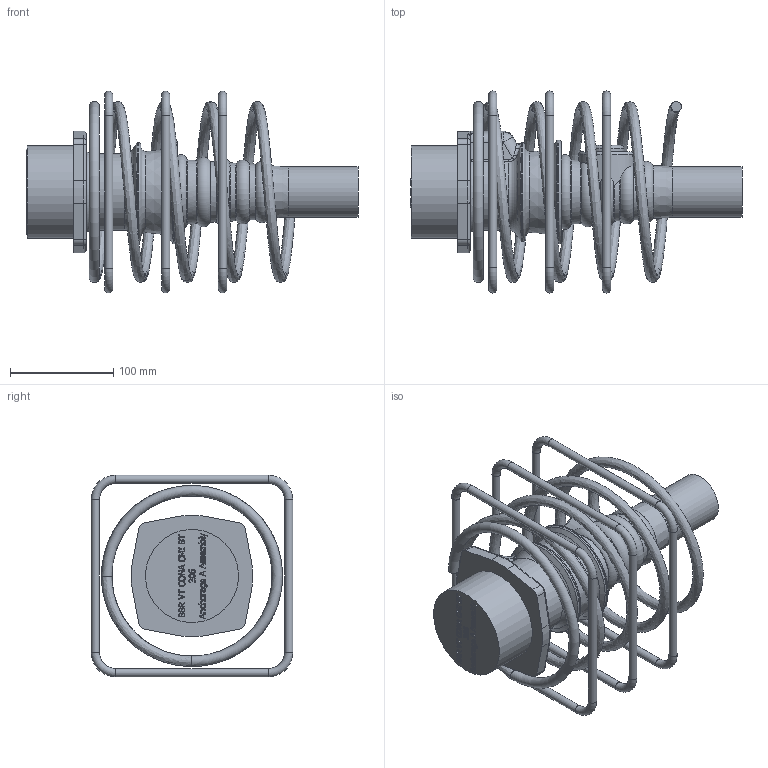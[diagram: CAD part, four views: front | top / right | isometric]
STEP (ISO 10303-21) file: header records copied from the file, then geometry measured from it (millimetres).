
FILE_DESCRIPTION(/* description */ (''),/* implementation_level */ '2;1');
FILE_NAME(/* name */ 'BBR VT CONA CMI BT 206_Anchorage A Assembly_CS-34,28.stp',/* time_stamp */ '2025-04-29T09:35:26+02:00',/* author */ ('tk'),/* organization */ (''),/* preprocessor_version */ 'ST-DEVELOPER v20',/* originating_system */ 'Autodesk Inventor 2024',/* authorisation */ '');
FILE_SCHEMA (('AUTOMOTIVE_DESIGN { 1 0 10303 214 3 1 1 }'));
Length unit declared in the file: millimetre
Products named in the file (1): BBR VT CONA CMI BT 206_Anchorage A Assembly_CS-34,28
Bounding box: 320.9 x 195 x 195 mm (x, y, z)
Volume: 1691286.9 mm3; surface area: 240642.5 mm2
Topology: 5 solids, 5 shells, 721 faces, 1939 edges, 1276 vertices
Faces by surface type: plane 322, bspline 300, torus 47, cylinder 43, cone 9
Full cylindrical faces by diameter (mm): 8 x12, 32 x1, 49 x1, 55 x1, 90 x1, 95 x1, 100 x1
Entity records: 28129 total; most frequent: CARTESIAN_POINT 11205, ORIENTED_EDGE 3870, DIRECTION 2361, EDGE_CURVE 1935, VERTEX_POINT 1276, LINE 1101, VECTOR 1101, EDGE_LOOP 779
